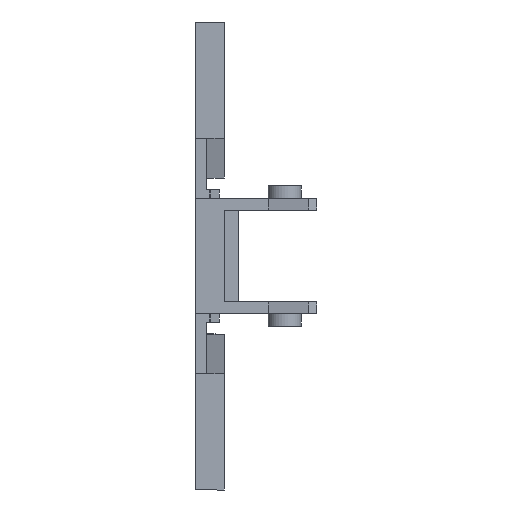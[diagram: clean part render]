
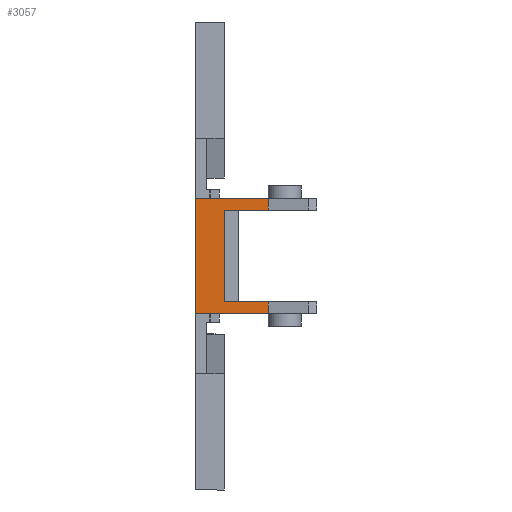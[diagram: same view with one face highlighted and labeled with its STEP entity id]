
A CAD part, front view. The second image highlights one B-rep face of the part: STEP entity #3057.
In plain terms, the highlighted planar face has unit normal (0, -1, 0).
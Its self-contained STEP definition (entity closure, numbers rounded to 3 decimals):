
#433 = EDGE_CURVE ( 'NONE', #2670, #2669, #1433, .T. ) ;
#441 = AXIS2_PLACEMENT_3D ( 'NONE', #2540, #2546, #2547 ) ;
#534 = EDGE_CURVE ( 'NONE', #2671, #2672, #1534, .T. ) ;
#613 = EDGE_CURVE ( 'NONE', #2674, #2673, #1658, .T. ) ;
#621 = EDGE_CURVE ( 'NONE', #2670, #2671, #1676, .T. ) ;
#750 = EDGE_CURVE ( 'NONE', #2667, #2668, #1806, .T. ) ;
#758 = EDGE_CURVE ( 'NONE', #2667, #2669, #1836, .T. ) ;
#814 = EDGE_CURVE ( 'NONE', #2668, #2674, #1915, .T. ) ;
#859 = EDGE_CURVE ( 'NONE', #2672, #2673, #1153, .T. ) ;
#949 = ORIENTED_EDGE ( 'NONE', *, *, #859, .T. ) ;
#950 = ORIENTED_EDGE ( 'NONE', *, *, #534, .T. ) ;
#951 = ORIENTED_EDGE ( 'NONE', *, *, #750, .F. ) ;
#953 = ORIENTED_EDGE ( 'NONE', *, *, #814, .F. ) ;
#958 = ORIENTED_EDGE ( 'NONE', *, *, #613, .F. ) ;
#959 = ORIENTED_EDGE ( 'NONE', *, *, #758, .T. ) ;
#1077 = EDGE_LOOP ( 'NONE', ( #951, #959, #1124, #1125, #950, #949, #958, #953 ) ) ;
#1124 = ORIENTED_EDGE ( 'NONE', *, *, #433, .F. ) ;
#1125 = ORIENTED_EDGE ( 'NONE', *, *, #621, .T. ) ;
#1153 = LINE ( 'NONE', #2161, #1154 ) ;
#1154 = VECTOR ( 'NONE', #2162, 1000. ) ;
#1224 = FACE_OUTER_BOUND ( 'NONE', #1077, .T. ) ;
#1433 = LINE ( 'NONE', #2868, #1440 ) ;
#1440 = VECTOR ( 'NONE', #2871, 1000. ) ;
#1534 = LINE ( 'NONE', #2992, #1550 ) ;
#1550 = VECTOR ( 'NONE', #2999, 1000. ) ;
#1658 = LINE ( 'NONE', #3221, #1665 ) ;
#1665 = VECTOR ( 'NONE', #3235, 1000. ) ;
#1676 = LINE ( 'NONE', #3215, #1677 ) ;
#1677 = VECTOR ( 'NONE', #3220, 1000. ) ;
#1806 = LINE ( 'NONE', #1985, #1832 ) ;
#1832 = VECTOR ( 'NONE', #2001, 1000. ) ;
#1833 = VECTOR ( 'NONE', #2012, 1000. ) ;
#1836 = LINE ( 'NONE', #2011, #1833 ) ;
#1915 = LINE ( 'NONE', #2092, #1916 ) ;
#1916 = VECTOR ( 'NONE', #2093, 1000. ) ;
#1985 = CARTESIAN_POINT ( 'NONE',  ( 3., -25.55, -5.9 ) ) ;
#2001 = DIRECTION ( 'NONE',  ( 0., 0., -1. ) ) ;
#2011 = CARTESIAN_POINT ( 'NONE',  ( 12.5, -25.55, 4.7 ) ) ;
#2012 = DIRECTION ( 'NONE',  ( 1., 0., 0. ) ) ;
#2092 = CARTESIAN_POINT ( 'NONE',  ( 12.5, -25.55, -4.7 ) ) ;
#2093 = DIRECTION ( 'NONE',  ( 1., 0., 0. ) ) ;
#2161 = CARTESIAN_POINT ( 'NONE',  ( 1.5, -25.55, -5.9 ) ) ;
#2162 = DIRECTION ( 'NONE',  ( 1., 0., 0. ) ) ;
#2214 = CARTESIAN_POINT ( 'NONE',  ( 3., -25.55, 4.7 ) ) ;
#2215 = CARTESIAN_POINT ( 'NONE',  ( 3., -25.55, -4.7 ) ) ;
#2216 = CARTESIAN_POINT ( 'NONE',  ( 7.523, -25.55, 4.7 ) ) ;
#2217 = CARTESIAN_POINT ( 'NONE',  ( 7.523, -25.55, 5.9 ) ) ;
#2218 = CARTESIAN_POINT ( 'NONE',  ( 0., -25.55, 5.9 ) ) ;
#2219 = CARTESIAN_POINT ( 'NONE',  ( 0., -25.55, -5.9 ) ) ;
#2220 = CARTESIAN_POINT ( 'NONE',  ( 7.523, -25.55, -5.9 ) ) ;
#2221 = CARTESIAN_POINT ( 'NONE',  ( 7.523, -25.55, -4.7 ) ) ;
#2537 = PLANE ( 'NONE',  #441 ) ;
#2540 = CARTESIAN_POINT ( 'NONE',  ( 12.5, -25.55, -5.9 ) ) ;
#2546 = DIRECTION ( 'NONE',  ( 0., -1., 0. ) ) ;
#2547 = DIRECTION ( 'NONE',  ( -1., 0., 0. ) ) ;
#2667 = VERTEX_POINT ( 'NONE', #2214 ) ;
#2668 = VERTEX_POINT ( 'NONE', #2215 ) ;
#2669 = VERTEX_POINT ( 'NONE', #2216 ) ;
#2670 = VERTEX_POINT ( 'NONE', #2217 ) ;
#2671 = VERTEX_POINT ( 'NONE', #2218 ) ;
#2672 = VERTEX_POINT ( 'NONE', #2219 ) ;
#2673 = VERTEX_POINT ( 'NONE', #2220 ) ;
#2674 = VERTEX_POINT ( 'NONE', #2221 ) ;
#2868 = CARTESIAN_POINT ( 'NONE',  ( 7.523, -25.55, 67.733 ) ) ;
#2871 = DIRECTION ( 'NONE',  ( 0., 0., -1. ) ) ;
#2992 = CARTESIAN_POINT ( 'NONE',  ( 0., -25.55, 15.37 ) ) ;
#2999 = DIRECTION ( 'NONE',  ( 0., 0., -1. ) ) ;
#3057 = ADVANCED_FACE ( 'NONE', ( #1224 ), #2537, .T. ) ;
#3215 = CARTESIAN_POINT ( 'NONE',  ( 12.5, -25.55, 5.9 ) ) ;
#3220 = DIRECTION ( 'NONE',  ( -1., 0., 0. ) ) ;
#3221 = CARTESIAN_POINT ( 'NONE',  ( 7.523, -25.55, 67.733 ) ) ;
#3235 = DIRECTION ( 'NONE',  ( 0., 0., -1. ) ) ;
